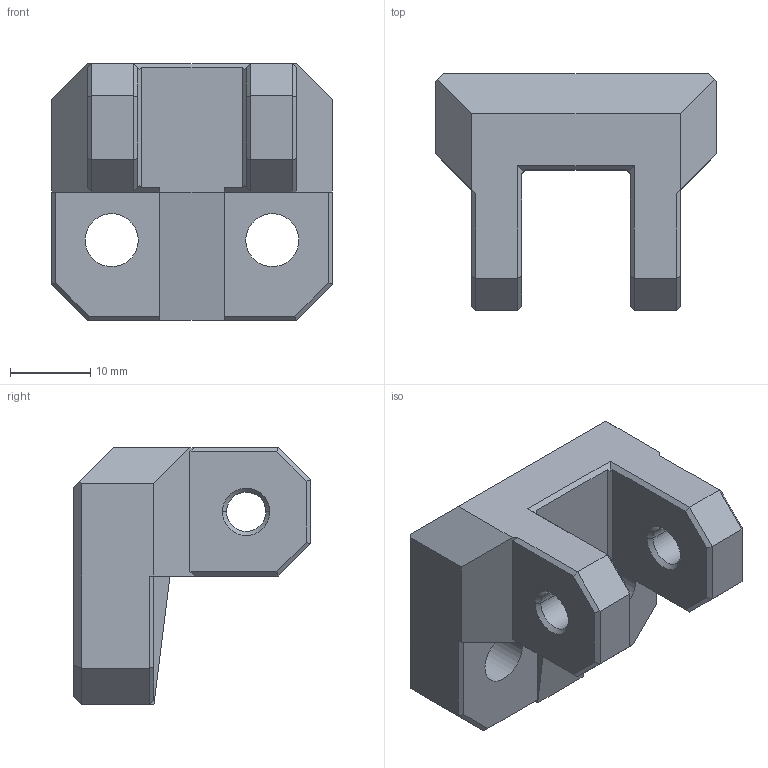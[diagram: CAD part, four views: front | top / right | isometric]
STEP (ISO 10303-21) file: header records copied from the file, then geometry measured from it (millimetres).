
FILE_DESCRIPTION(('CATIA V5 STEP Exchange'),'2;1');
FILE_NAME('D:\_이전 노트북\Cremaker모델링\Cremaker_profile-Metal(5차)-(Final)\Y-bearing-block.stp','2020-10-23T05:18:54+00:00',('none'),('none'),'CATIA Version 5 Release 20 GA (IN-10)','CATIA V5 STEP AP203','none');
FILE_SCHEMA(('CONFIG_CONTROL_DESIGN'));
Length unit declared in the file: millimetre
Products named in the file (1): Y-bearing-block
Bounding box: 35 x 29.5 x 32 mm (x, y, z)
Volume: 13963.7 mm3; surface area: 5097 mm2
Topology: 1 solids, 1 shells, 87 faces, 221 edges, 136 vertices
Faces by surface type: plane 67, cone 12, cylinder 8
Entity records: 2551 total; most frequent: CARTESIAN_POINT 543, ORIENTED_EDGE 442, DIRECTION 331, EDGE_CURVE 221, VECTOR 155, LINE 155, VERTEX_POINT 136, AXIS2_PLACEMENT_3D 101
